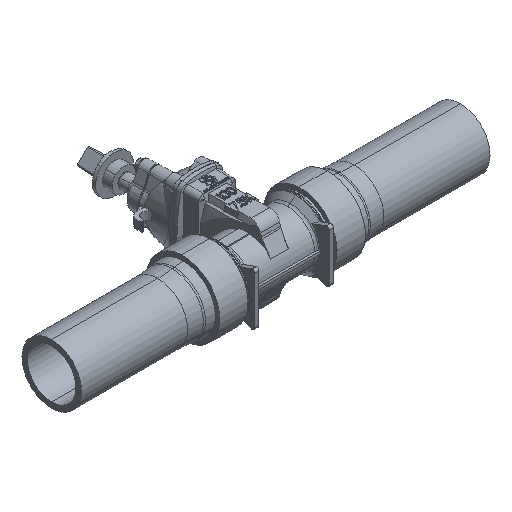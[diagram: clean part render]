
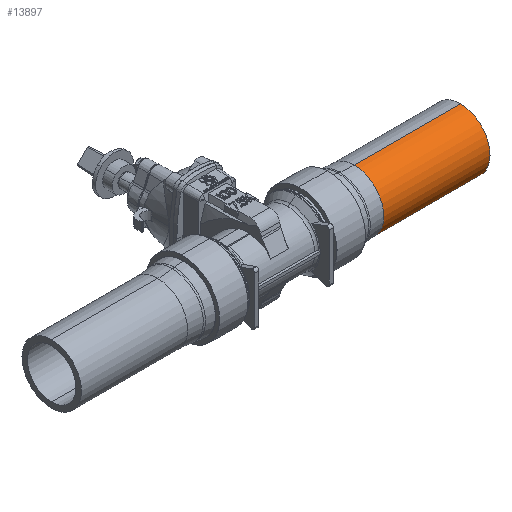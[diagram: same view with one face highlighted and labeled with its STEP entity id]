
A CAD part, isometric view. The second image highlights one B-rep face of the part: STEP entity #13897.
In plain terms, the highlighted cylindrical face has radius 62.5 mm (diameter 125 mm), a partial arc.
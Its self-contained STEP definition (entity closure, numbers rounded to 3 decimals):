
#1314 = CARTESIAN_POINT ( 'NONE',  ( -180.997, 0., -62.5 ) ) ;
#1667 = CARTESIAN_POINT ( 'NONE',  ( 430., 0., 0. ) ) ;
#1940 = EDGE_LOOP ( 'NONE', ( #19755, #5368, #4561, #16539 ) ) ;
#2604 = CARTESIAN_POINT ( 'NONE',  ( 206.623, 0., 62.5 ) ) ;
#2698 = DIRECTION ( 'NONE',  ( -1., 0., 0. ) ) ;
#3258 = FACE_OUTER_BOUND ( 'NONE', #1940, .T. ) ;
#4450 = DIRECTION ( 'NONE',  ( -1., 0., 0. ) ) ;
#4561 = ORIENTED_EDGE ( 'NONE', *, *, #14759, .T. ) ;
#5165 = CARTESIAN_POINT ( 'NONE',  ( -180.997, 0., 0. ) ) ;
#5368 = ORIENTED_EDGE ( 'NONE', *, *, #11249, .F. ) ;
#6399 = CIRCLE ( 'NONE', #21625, 62.5 ) ;
#7202 = VECTOR ( 'NONE', #19970, 1000. ) ;
#8302 = LINE ( 'NONE', #11946, #7202 ) ;
#9404 = VECTOR ( 'NONE', #2698, 1000. ) ;
#9459 = DIRECTION ( 'NONE',  ( 1., 0., 0. ) ) ;
#10224 = DIRECTION ( 'NONE',  ( 0., 0., 1. ) ) ;
#10266 = VERTEX_POINT ( 'NONE', #11453 ) ;
#10819 = DIRECTION ( 'NONE',  ( 0., 0., 1. ) ) ;
#11249 = EDGE_CURVE ( 'NONE', #11832, #10266, #13052, .T. ) ;
#11339 = DIRECTION ( 'NONE',  ( 0., 1., 0. ) ) ;
#11453 = CARTESIAN_POINT ( 'NONE',  ( 430., 0., -62.5 ) ) ;
#11832 = VERTEX_POINT ( 'NONE', #24700 ) ;
#11946 = CARTESIAN_POINT ( 'NONE',  ( -180.997, 0., 62.5 ) ) ;
#12739 = LINE ( 'NONE', #1314, #9404 ) ;
#13052 = CIRCLE ( 'NONE', #18644, 62.5 ) ;
#13886 = EDGE_CURVE ( 'NONE', #18537, #23710, #6399, .T. ) ;
#13897 = ADVANCED_FACE ( 'NONE', ( #3258 ), #21637, .T. ) ;
#14759 = EDGE_CURVE ( 'NONE', #11832, #23710, #8302, .T. ) ;
#16539 = ORIENTED_EDGE ( 'NONE', *, *, #13886, .F. ) ;
#18228 = CARTESIAN_POINT ( 'NONE',  ( 206.623, 0., -62.5 ) ) ;
#18537 = VERTEX_POINT ( 'NONE', #18228 ) ;
#18644 = AXIS2_PLACEMENT_3D ( 'NONE', #1667, #9459, #11339 ) ;
#19755 = ORIENTED_EDGE ( 'NONE', *, *, #21811, .F. ) ;
#19970 = DIRECTION ( 'NONE',  ( -1., 0., 0. ) ) ;
#21625 = AXIS2_PLACEMENT_3D ( 'NONE', #23529, #22352, #10224 ) ;
#21637 = CYLINDRICAL_SURFACE ( 'NONE', #24045, 62.5 ) ;
#21811 = EDGE_CURVE ( 'NONE', #10266, #18537, #12739, .T. ) ;
#22352 = DIRECTION ( 'NONE',  ( -1., 0., 0. ) ) ;
#23529 = CARTESIAN_POINT ( 'NONE',  ( 206.623, 0., 0. ) ) ;
#23710 = VERTEX_POINT ( 'NONE', #2604 ) ;
#24045 = AXIS2_PLACEMENT_3D ( 'NONE', #5165, #4450, #10819 ) ;
#24700 = CARTESIAN_POINT ( 'NONE',  ( 430., 0., 62.5 ) ) ;
